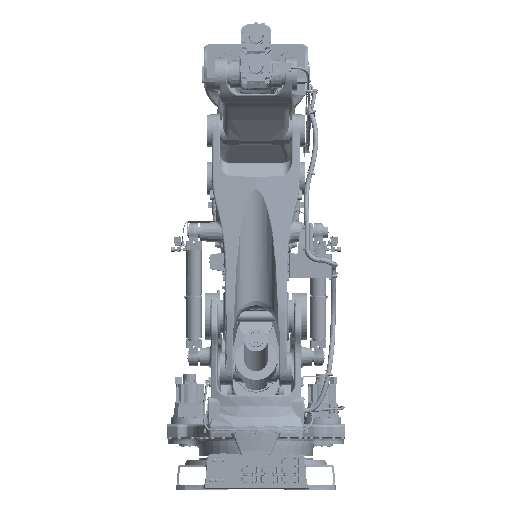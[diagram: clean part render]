
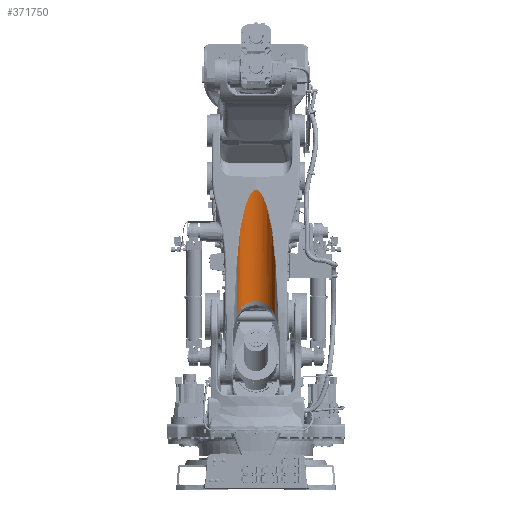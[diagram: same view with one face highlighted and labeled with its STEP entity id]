
A CAD part, front view. The second image highlights one B-rep face of the part: STEP entity #371750.
In plain terms, the highlighted cylindrical face has radius 150 mm (diameter 300 mm), a partial arc.
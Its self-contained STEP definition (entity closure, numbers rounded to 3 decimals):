
#367233=CARTESIAN_POINT('Vertex',(146.156,-217.886,391.657)) ;
#367520=CARTESIAN_POINT('Control Point',(146.156,-217.886,391.657)) ;
#367521=CARTESIAN_POINT('Control Point',(144.95,-216.008,415.815)) ;
#367522=CARTESIAN_POINT('Control Point',(143.502,-214.144,439.959)) ;
#367523=CARTESIAN_POINT('Control Point',(141.806,-212.294,464.09)) ;
#367524=CARTESIAN_POINT('Control Point',(137.45,-208.211,517.761)) ;
#367525=CARTESIAN_POINT('Control Point',(131.718,-204.21,571.306)) ;
#367526=CARTESIAN_POINT('Control Point',(128.113,-202.036,600.717)) ;
#367527=CARTESIAN_POINT('Control Point',(121.192,-198.42,650.257)) ;
#367528=CARTESIAN_POINT('Control Point',(112.594,-194.913,699.529)) ;
#367529=CARTESIAN_POINT('Control Point',(108.789,-193.508,719.513)) ;
#367530=CARTESIAN_POINT('Control Point',(101.44,-191.063,754.761)) ;
#367531=CARTESIAN_POINT('Control Point',(92.767,-188.712,789.7)) ;
#367532=CARTESIAN_POINT('Control Point',(88.721,-187.713,804.782)) ;
#367533=CARTESIAN_POINT('Control Point',(81.129,-186.022,830.795)) ;
#367534=CARTESIAN_POINT('Control Point',(72.273,-184.432,856.394)) ;
#367535=CARTESIAN_POINT('Control Point',(68.276,-183.782,867.097)) ;
#367536=CARTESIAN_POINT('Control Point',(60.923,-182.717,885.166)) ;
#367537=CARTESIAN_POINT('Control Point',(52.376,-181.76,902.682)) ;
#367538=CARTESIAN_POINT('Control Point',(48.617,-181.388,909.772)) ;
#367539=CARTESIAN_POINT('Control Point',(41.415,-180.775,922.119)) ;
#367540=CARTESIAN_POINT('Control Point',(33.003,-180.292,933.644)) ;
#367541=CARTESIAN_POINT('Control Point',(29.054,-180.112,938.467)) ;
#367542=CARTESIAN_POINT('Control Point',(22.266,-179.893,945.646)) ;
#367543=CARTESIAN_POINT('Control Point',(14.42,-179.832,951.552)) ;
#367544=CARTESIAN_POINT('Control Point',(11.373,-179.835,953.512)) ;
#367545=CARTESIAN_POINT('Control Point',(7.261,-179.88,955.644)) ;
#367546=CARTESIAN_POINT('Control Point',(2.921,-179.986,957.162)) ;
#367547=CARTESIAN_POINT('Control Point',(1.956,-180.013,957.464)) ;
#367548=CARTESIAN_POINT('Control Point',(0.982,-180.043,957.733)) ;
#367549=CARTESIAN_POINT('Control Point',(0.,-180.075,957.968)) ;
#367550=CARTESIAN_POINT('Vertex',(0.,-180.075,957.968)) ;
#371645=CARTESIAN_POINT('Line Origine',(146.156,-190.34,195.657)) ;
#371649=CARTESIAN_POINT('Vertex',(146.156,-162.794,-0.342)) ;
#371665=CARTESIAN_POINT('Axis2P3D Location',(0.,-196.514,-2.858)) ;
#371671=CARTESIAN_POINT('Control Point',(-146.155,-217.886,391.658)) ;
#371672=CARTESIAN_POINT('Control Point',(-144.95,-216.008,415.815)) ;
#371673=CARTESIAN_POINT('Control Point',(-143.502,-214.144,439.96)) ;
#371674=CARTESIAN_POINT('Control Point',(-141.806,-212.294,464.09)) ;
#371675=CARTESIAN_POINT('Control Point',(-137.45,-208.211,517.761)) ;
#371676=CARTESIAN_POINT('Control Point',(-131.718,-204.21,571.307)) ;
#371677=CARTESIAN_POINT('Control Point',(-128.113,-202.036,600.717)) ;
#371678=CARTESIAN_POINT('Control Point',(-121.192,-198.42,650.258)) ;
#371679=CARTESIAN_POINT('Control Point',(-112.594,-194.913,699.529)) ;
#371680=CARTESIAN_POINT('Control Point',(-108.789,-193.508,719.513)) ;
#371681=CARTESIAN_POINT('Control Point',(-101.44,-191.063,754.761)) ;
#371682=CARTESIAN_POINT('Control Point',(-92.767,-188.712,789.7)) ;
#371683=CARTESIAN_POINT('Control Point',(-88.721,-187.713,804.782)) ;
#371684=CARTESIAN_POINT('Control Point',(-81.129,-186.022,830.795)) ;
#371685=CARTESIAN_POINT('Control Point',(-72.273,-184.432,856.394)) ;
#371686=CARTESIAN_POINT('Control Point',(-68.276,-183.782,867.097)) ;
#371687=CARTESIAN_POINT('Control Point',(-60.923,-182.717,885.166)) ;
#371688=CARTESIAN_POINT('Control Point',(-52.376,-181.76,902.682)) ;
#371689=CARTESIAN_POINT('Control Point',(-48.617,-181.388,909.773)) ;
#371690=CARTESIAN_POINT('Control Point',(-41.415,-180.775,922.12)) ;
#371691=CARTESIAN_POINT('Control Point',(-33.003,-180.292,933.644)) ;
#371692=CARTESIAN_POINT('Control Point',(-29.054,-180.112,938.467)) ;
#371693=CARTESIAN_POINT('Control Point',(-22.265,-179.893,945.646)) ;
#371694=CARTESIAN_POINT('Control Point',(-14.42,-179.832,951.552)) ;
#371695=CARTESIAN_POINT('Control Point',(-11.373,-179.835,953.512)) ;
#371696=CARTESIAN_POINT('Control Point',(-7.261,-179.88,955.644)) ;
#371697=CARTESIAN_POINT('Control Point',(-2.921,-179.986,957.162)) ;
#371698=CARTESIAN_POINT('Control Point',(-1.956,-180.013,957.464)) ;
#371699=CARTESIAN_POINT('Control Point',(-0.982,-180.043,957.733)) ;
#371700=CARTESIAN_POINT('Control Point',(0.,-180.075,957.968)) ;
#371701=CARTESIAN_POINT('Vertex',(-146.155,-217.886,391.658)) ;
#371704=CARTESIAN_POINT('Line Origine',(-146.155,-163.1,1.838)) ;
#371708=CARTESIAN_POINT('Vertex',(-146.155,-162.794,-0.342)) ;
#371712=CARTESIAN_POINT('Control Point',(146.156,-162.794,-0.342)) ;
#371713=CARTESIAN_POINT('Control Point',(144.355,-156.004,7.396)) ;
#371714=CARTESIAN_POINT('Control Point',(142.022,-149.276,15.064)) ;
#371715=CARTESIAN_POINT('Control Point',(139.15,-142.634,22.634)) ;
#371716=CARTESIAN_POINT('Control Point',(131.065,-127.218,40.205)) ;
#371717=CARTESIAN_POINT('Control Point',(119.836,-112.657,56.8)) ;
#371718=CARTESIAN_POINT('Control Point',(112.276,-104.631,65.947)) ;
#371719=CARTESIAN_POINT('Control Point',(98.024,-92.287,80.016)) ;
#371720=CARTESIAN_POINT('Control Point',(80.788,-81.804,91.964)) ;
#371721=CARTESIAN_POINT('Control Point',(73.592,-78.035,96.259)) ;
#371722=CARTESIAN_POINT('Control Point',(59.285,-71.707,103.472)) ;
#371723=CARTESIAN_POINT('Control Point',(43.639,-66.976,108.864)) ;
#371724=CARTESIAN_POINT('Control Point',(36.078,-65.156,110.938)) ;
#371725=CARTESIAN_POINT('Control Point',(18.852,-62.065,114.461)) ;
#371726=CARTESIAN_POINT('Control Point',(1.017,-61.185,115.463)) ;
#371727=CARTESIAN_POINT('Control Point',(-8.821,-61.41,115.207)) ;
#371728=CARTESIAN_POINT('Control Point',(-26.674,-63.103,113.277)) ;
#371729=CARTESIAN_POINT('Control Point',(-43.697,-66.976,108.864)) ;
#371730=CARTESIAN_POINT('Control Point',(-51.201,-69.161,106.373)) ;
#371731=CARTESIAN_POINT('Control Point',(-66.795,-74.704,100.055)) ;
#371732=CARTESIAN_POINT('Control Point',(-80.873,-81.815,91.951)) ;
#371733=CARTESIAN_POINT('Control Point',(-87.962,-86.025,87.153)) ;
#371734=CARTESIAN_POINT('Control Point',(-107.356,-99.356,71.96)) ;
#371735=CARTESIAN_POINT('Control Point',(-122.476,-115.047,54.076)) ;
#371736=CARTESIAN_POINT('Control Point',(-130.611,-126.08,41.502)) ;
#371737=CARTESIAN_POINT('Control Point',(-138.445,-140.154,25.461)) ;
#371738=CARTESIAN_POINT('Control Point',(-143.736,-154.67,8.916)) ;
#371739=CARTESIAN_POINT('Control Point',(-144.628,-157.367,5.843)) ;
#371740=CARTESIAN_POINT('Control Point',(-145.434,-160.075,2.756)) ;
#371741=CARTESIAN_POINT('Control Point',(-146.155,-162.794,-0.342)) ;
#371646=DIRECTION('Vector Direction',(0.,-0.139,0.99)) ;
#371666=DIRECTION('Axis2P3D Direction',(0.,0.139,-0.99)) ;
#371667=DIRECTION('Axis2P3D XDirection',(-0.974,0.223,0.031)) ;
#371705=DIRECTION('Vector Direction',(0.,0.139,-0.99)) ;
#371668=AXIS2_PLACEMENT_3D('Cylinder Axis2P3D',#371665,#371666,#371667) ;
#371744=ORIENTED_EDGE('',*,*,#367552,.T.) ;
#371745=ORIENTED_EDGE('',*,*,#371703,.T.) ;
#371746=ORIENTED_EDGE('',*,*,#371710,.F.) ;
#371747=ORIENTED_EDGE('',*,*,#371742,.T.) ;
#371748=ORIENTED_EDGE('',*,*,#371651,.T.) ;
#371647=VECTOR('Line Direction',#371646,1.) ;
#371706=VECTOR('Line Direction',#371705,1.) ;
#371750=ADVANCED_FACE('Subarm1',(#371749),#371669,.F.) ;
#367519=B_SPLINE_CURVE_WITH_KNOTS('',5,(#367520,#367521,#367522,#367523,#367524,#367525,#367526,#367527,#367528,#367529,#367530,#367531,#367532,#367533,#367534,#367535,#367536,#367537,#367538,#367539,#367540,#367541,#367542,#367543,#367544,#367545,#367546,#367547,#367548,#367549),.UNSPECIFIED.,.F.,.U.,(6,3,3,3,3,3,3,3,3,6),(807.31,979.028,1189.47,1333.961,1444.955,1526.247,1583.398,1627.72,1653.456,1660.713),.UNSPECIFIED.) ;
#371670=B_SPLINE_CURVE_WITH_KNOTS('',5,(#371671,#371672,#371673,#371674,#371675,#371676,#371677,#371678,#371679,#371680,#371681,#371682,#371683,#371684,#371685,#371686,#371687,#371688,#371689,#371690,#371691,#371692,#371693,#371694,#371695,#371696,#371697,#371698,#371699,#371700),.UNSPECIFIED.,.F.,.U.,(6,3,3,3,3,3,3,3,3,6),(807.311,979.029,1189.471,1333.961,1444.956,1526.248,1583.398,1627.72,1653.456,1660.713),.UNSPECIFIED.) ;
#371711=B_SPLINE_CURVE_WITH_KNOTS('',5,(#371712,#371713,#371714,#371715,#371716,#371717,#371718,#371719,#371720,#371721,#371722,#371723,#371724,#371725,#371726,#371727,#371728,#371729,#371730,#371731,#371732,#371733,#371734,#371735,#371736,#371737,#371738,#371739,#371740,#371741),.UNSPECIFIED.,.F.,.U.,(6,3,3,3,3,3,3,3,3,6),(63.291,137.189,237.891,302.592,359.253,428.362,486.11,553.288,683.731,713.316),.UNSPECIFIED.) ;
#371669=CYLINDRICAL_SURFACE('generated cylinder',#371668,150.) ;
#367552=EDGE_CURVE('',#367234,#367551,#367519,.T.) ;
#371651=EDGE_CURVE('',#371650,#367234,#371648,.T.) ;
#371703=EDGE_CURVE('',#367551,#371702,#371670,.F.) ;
#371710=EDGE_CURVE('',#371709,#371702,#371707,.F.) ;
#371742=EDGE_CURVE('',#371709,#371650,#371711,.F.) ;
#371743=EDGE_LOOP('',(#371744,#371745,#371746,#371747,#371748)) ;
#371749=FACE_OUTER_BOUND('',#371743,.T.) ;
#371648=LINE('Line',#371645,#371647) ;
#371707=LINE('Line',#371704,#371706) ;
#367234=VERTEX_POINT('',#367233) ;
#367551=VERTEX_POINT('',#367550) ;
#371650=VERTEX_POINT('',#371649) ;
#371702=VERTEX_POINT('',#371701) ;
#371709=VERTEX_POINT('',#371708) ;
